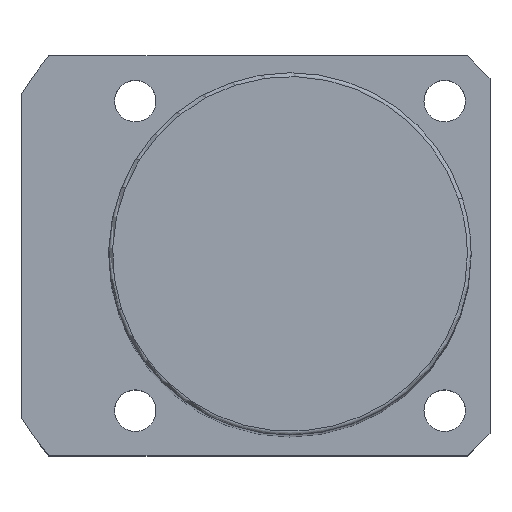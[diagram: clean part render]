
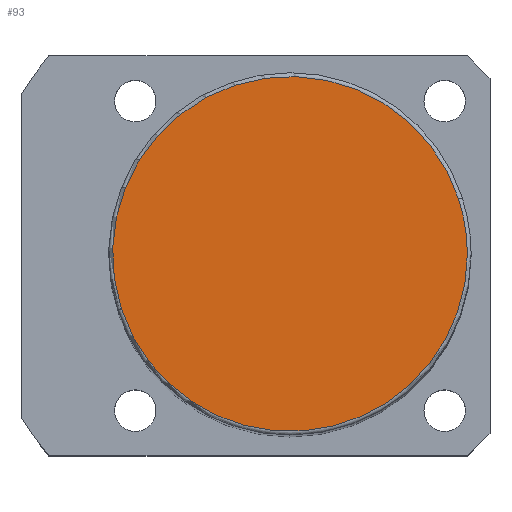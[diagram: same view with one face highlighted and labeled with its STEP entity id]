
A CAD part, top view. The second image highlights one B-rep face of the part: STEP entity #93.
In plain terms, the highlighted planar face has unit normal (0, 0, 1).
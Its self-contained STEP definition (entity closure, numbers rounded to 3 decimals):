
#16=CARTESIAN_POINT('',(22.35,7.262,159.0));
#17=VERTEX_POINT('',#16);
#45=CARTESIAN_POINT('',(-22.35,-7.262,159.0));
#46=VERTEX_POINT('',#45);
#54=CARTESIAN_POINT('',(0.0,0.0,159.0));
#55=DIRECTION('',(0.0,0.0,1.0));
#56=DIRECTION('',(1.0,0.0,0.0));
#57=AXIS2_PLACEMENT_3D('',#54,#55,#56);
#58=CIRCLE('',#57,23.5);
#59=EDGE_CURVE('no 890',#17,#46,#58,.T.);
#69=CARTESIAN_POINT('',(23.5,0.0,159.0));
#70=VERTEX_POINT('',#69);
#71=CARTESIAN_POINT('',(0.0,0.0,159.0));
#72=DIRECTION('',(0.0,0.0,1.0));
#73=DIRECTION('',(1.0,0.0,0.0));
#74=AXIS2_PLACEMENT_3D('',#71,#72,#73);
#75=CIRCLE('',#74,23.5);
#76=EDGE_CURVE('no 899',#70,#17,#75,.T.);
#77=ORIENTED_EDGE('',*,*,#76,.T.);
#78=ORIENTED_EDGE('',*,*,#59,.T.);
#79=CARTESIAN_POINT('',(0.0,0.0,159.0));
#80=DIRECTION('',(0.0,0.0,1.0));
#81=DIRECTION('',(1.0,0.0,0.0));
#82=AXIS2_PLACEMENT_3D('',#79,#80,#81);
#83=CIRCLE('',#82,23.5);
#84=EDGE_CURVE('no 905',#46,#70,#83,.T.);
#85=ORIENTED_EDGE('',*,*,#84,.T.);
#86=EDGE_LOOP('',(#77,#78,#85));
#87=FACE_OUTER_BOUND('',#86,.T.);
#88=CARTESIAN_POINT('',(0.0,0.0,159.0));
#89=DIRECTION('',(0.0,0.0,1.0));
#90=DIRECTION('',(1.0,0.0,0.0));
#91=AXIS2_PLACEMENT_3D('',#88,#89,#90);
#92=PLANE('',#91);
#93=ADVANCED_FACE('no 892',(#87),#92,.T.);
